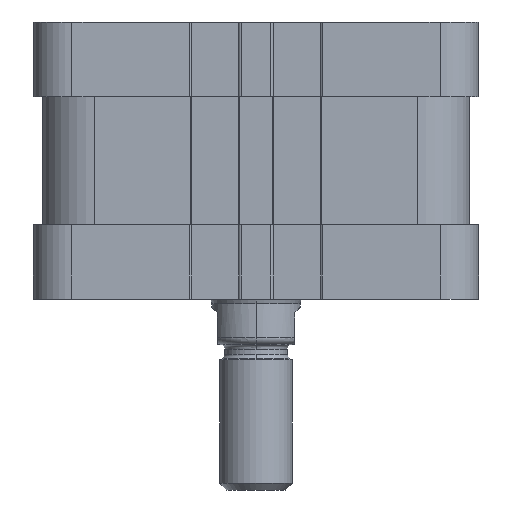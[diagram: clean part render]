
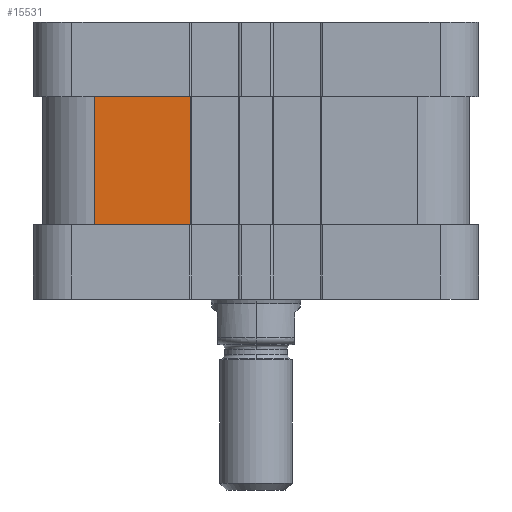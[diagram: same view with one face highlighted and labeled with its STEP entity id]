
A CAD part, left-side view. The second image highlights one B-rep face of the part: STEP entity #15531.
In plain terms, the highlighted planar face has unit normal (-1, 0, 0).
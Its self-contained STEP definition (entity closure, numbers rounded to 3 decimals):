
#8932=CARTESIAN_POINT('',(-28.25,-9.6,-11.6));
#8933=VERTEX_POINT('',#8932);
#8941=CARTESIAN_POINT('',(-28.25,11.5,-11.6));
#8942=VERTEX_POINT('',#8941);
#8943=CARTESIAN_POINT('',(-28.25,11.5,-11.6));
#8944=DIRECTION('',(0.0,-1.0,0.0));
#8945=VECTOR('',#8944,21.1);
#8946=LINE('',#8943,#8945);
#8947=EDGE_CURVE('',#8942,#8933,#8946,.T.);
#11426=CARTESIAN_POINT('',(-28.25,11.5,16.6));
#11427=VERTEX_POINT('',#11426);
#11435=CARTESIAN_POINT('',(-28.25,-9.6,16.6));
#11436=VERTEX_POINT('',#11435);
#11437=CARTESIAN_POINT('',(-28.25,-9.6,16.6));
#11438=DIRECTION('',(0.0,1.0,0.0));
#11439=VECTOR('',#11438,21.1);
#11440=LINE('',#11437,#11439);
#11441=EDGE_CURVE('',#11436,#11427,#11440,.T.);
#15449=CARTESIAN_POINT('',(-28.25,-9.6,16.6));
#15450=DIRECTION('',(0.0,0.0,-1.0));
#15451=VECTOR('',#15450,28.2);
#15452=LINE('',#15449,#15451);
#15453=EDGE_CURVE('',#11436,#8933,#15452,.T.);
#15515=CARTESIAN_POINT('',(-28.25,-59.5,-11.6));
#15516=DIRECTION('',(-1.0,0.0,0.0));
#15517=DIRECTION('',(0.0,0.0,1.0));
#15518=AXIS2_PLACEMENT_3D('',#15515,#15516,#15517);
#15519=PLANE('',#15518);
#15520=ORIENTED_EDGE('',*,*,#15453,.F.);
#15521=ORIENTED_EDGE('',*,*,#11441,.T.);
#15522=CARTESIAN_POINT('',(-28.25,11.5,-11.6));
#15523=DIRECTION('',(0.0,0.0,1.0));
#15524=VECTOR('',#15523,28.2);
#15525=LINE('',#15522,#15524);
#15526=EDGE_CURVE('',#8942,#11427,#15525,.T.);
#15527=ORIENTED_EDGE('',*,*,#15526,.F.);
#15528=ORIENTED_EDGE('',*,*,#8947,.T.);
#15529=EDGE_LOOP('',(#15520,#15521,#15527,#15528));
#15530=FACE_OUTER_BOUND('',#15529,.T.);
#15531=ADVANCED_FACE('',(#15530),#15519,.T.);
